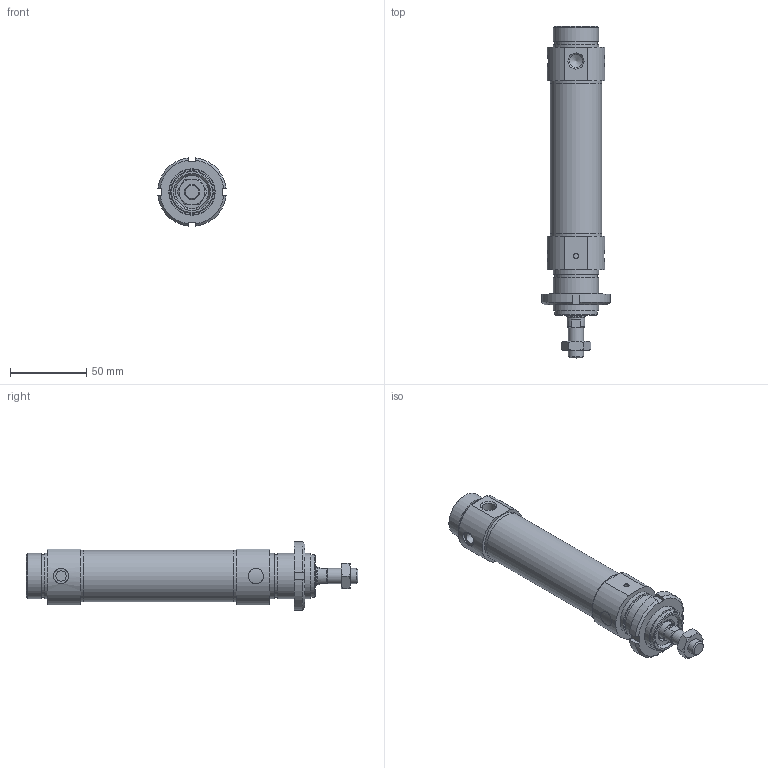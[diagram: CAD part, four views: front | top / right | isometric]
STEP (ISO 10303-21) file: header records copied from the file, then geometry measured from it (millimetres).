
FILE_DESCRIPTION(/* description */ ('Unknown'),/* implementation_level */ '2;1');
FILE_NAME(/* name */ 'AB 32_50',/* time_stamp */ '2024-09-03T08:50:03+02:00',/* author */ ('Unknown'),/* organization */ ('Unknown'),/* preprocessor_version */ 'ST-DEVELOPER v16.7',/* originating_system */ 'Solid Edge',/* authorisation */ 'Unknown');
FILE_SCHEMA (('AUTOMOTIVE_DESIGN {1 0 10303 214 3 1 1}'));
Length unit declared in the file: millimetre
Products named in the file (7): AB 32_50; Profilrohr; Kolbenstange; Kit_1; Kit_2; Mutter_1; Mutter_2
Assembly tree (6 placements, depth 2):
  AB 32_50
    Profilrohr
    Kolbenstange
    Kit_1
    Kit_2
    Mutter_1
    Mutter_2
Bounding box: 44.72 x 218 x 44.72 mm (x, y, z)
Volume: 144749.4 mm3; surface area: 55737.9 mm2
Topology: 8 solids, 9 shells, 169 faces, 336 edges, 214 vertices
Faces by surface type: plane 70, cylinder 51, cone 41, torus 7
Full cylindrical faces by diameter (mm): 3 x2, 6.91 x4, 6.917 x4, 8 x1, 8.56 x1, 8.566 x1, 8.647 x1, 10 x5, 11.5 x1, 12 x1, 12.8 x1, 12.847 x1, 13 x1, 18 x1, 22 x3, 28 x4, 28.376 x1, 30 x4, 32 x2, 33.6 x3
Entity records: 5199 total; most frequent: CARTESIAN_POINT 777, DIRECTION 708, ORIENTED_EDGE 492, AXIS2_PLACEMENT_3D 322, FACE_BOUND 281, EDGE_LOOP 280, EDGE_CURVE 246, VERTEX_POINT 197
